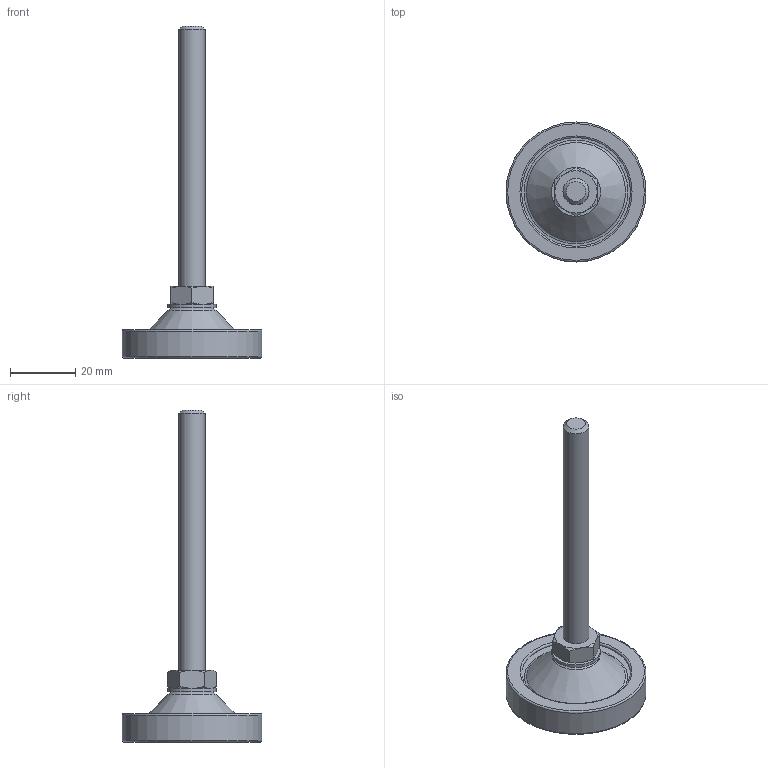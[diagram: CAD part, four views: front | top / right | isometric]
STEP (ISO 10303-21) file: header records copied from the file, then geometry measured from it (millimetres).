
FILE_DESCRIPTION(/* description */ (''),/* implementation_level */ '2;1');
FILE_NAME(/* name */ 'D:\조절자\PFR\PFR-M8-80L.stp',/* time_stamp */ '2016-03-14T15:05:06+09:00',/* author */ ('GS-DT-1-001'),/* organization */ (''),/* preprocessor_version */ 'ST-DEVELOPER v15.6',/* originating_system */ 'Autodesk Inventor LT ',/* authorisation */ '');
FILE_SCHEMA (('AUTOMOTIVE_DESIGN { 1 0 10303 214 3 1 1 }'));
Length unit declared in the file: millimetre
Products named in the file (1): PFR-M8-80L
Bounding box: 43 x 43 x 102 mm (x, y, z)
Volume: 15552.2 mm3; surface area: 10966.5 mm2
Topology: 5 solids, 5 shells, 71 faces, 133 edges, 80 vertices
Faces by surface type: plane 24, cone 21, torus 16, cylinder 10
Full cylindrical faces by diameter (mm): 3.422 x1, 4 x1, 4.2 x1, 4.3 x1, 8 x1, 8.4 x1, 15 x1, 37 x1, 37.4 x1, 43 x1
Entity records: 1526 total; most frequent: CARTESIAN_POINT 284, DIRECTION 272, ORIENTED_EDGE 182, AXIS2_PLACEMENT_3D 133, EDGE_LOOP 118, EDGE_CURVE 91, VERTEX_POINT 73, FACE_OUTER_BOUND 71
